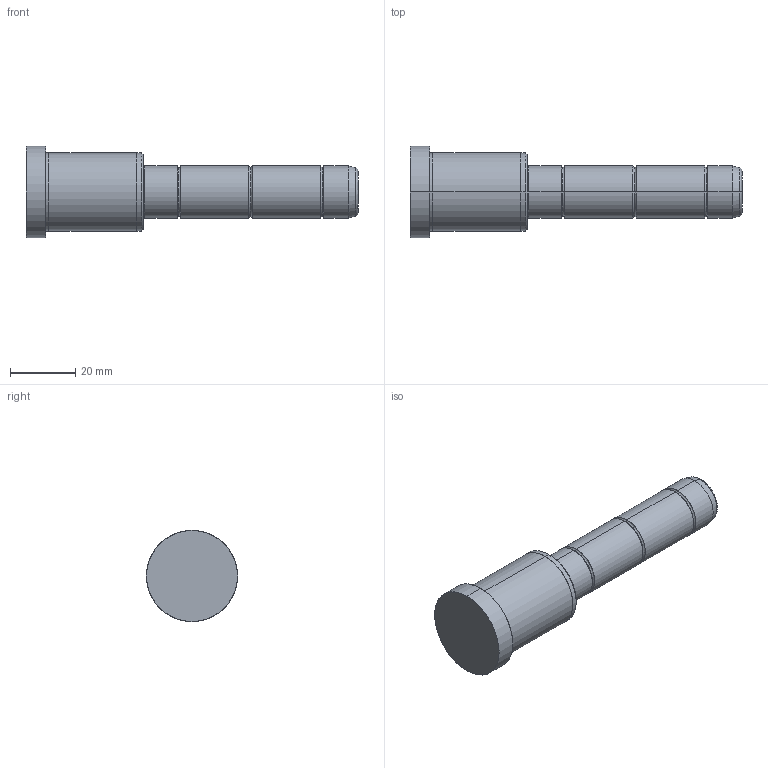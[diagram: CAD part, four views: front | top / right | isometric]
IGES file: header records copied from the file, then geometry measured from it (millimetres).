
Start section: SolidWorks IGES file using analytic representation for surfaces
Global section: file name: C:\Documents and Settings\kalite-mail\Desktop\IGS\D02\16\D02 - 16x36x66.IGS; native system: SolidWorks 2008; preprocessor: SolidWorks 2008; author: kalite-mail; date: 080616.142040; units: millimetre
Bounding box: 102 x 28 x 28 mm (x, y, z)
Surface area: 7334.1 mm2 (no closed solid volume)
Topology: 0 solids, 0 shells, 42 faces, 528 edges, 528 vertices
Faces by surface type: bspline 22, revolution 20
